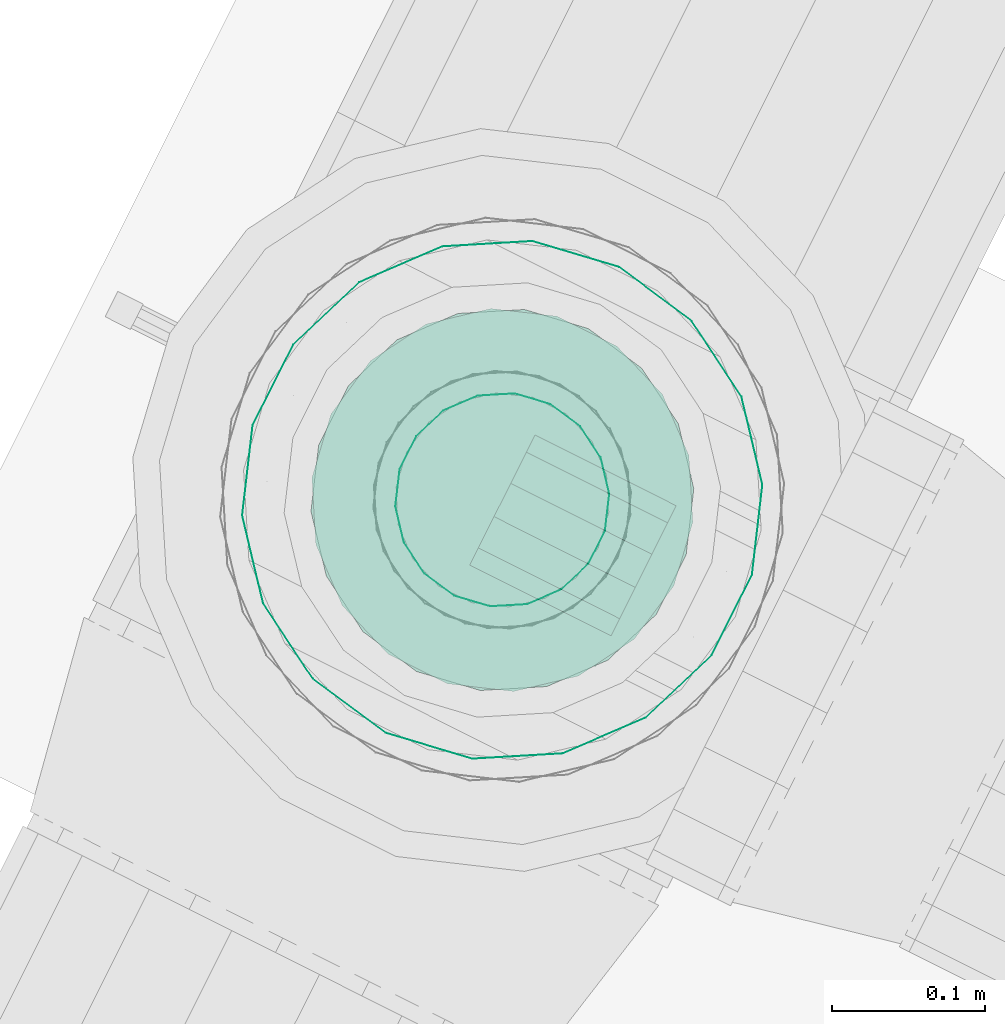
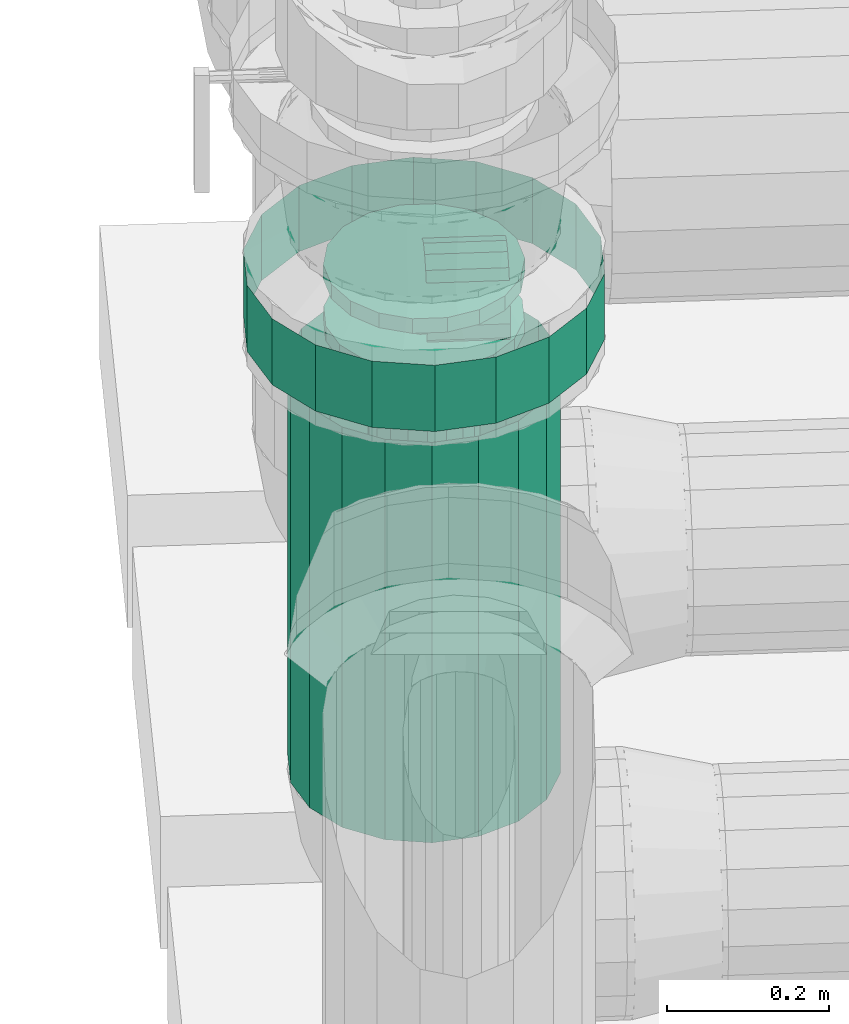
# One storey, part 105 of 152: 1 flow controller, 1 flow segment.
"""IFC2X3 building model written with IfcOpenShell, lengths in metres."""

import ifcopenshell
import ifcopenshell.guid

model = None  # the IFC model being written
_history = None  # IfcOwnerHistory: only IFC2X3 demands one
_inside = {}  # id of a spatial element -> (the spatial element, [elements in it])
_under = {}  # id of a project, library or spatial element -> (it, [spatial elements below it])
_declared = {}  # id of a project -> (the project, [libraries it declares])
_typed = {}  # id of a type object -> (the type object, [elements of that type])
_made_of = {}  # id of a material, layer set ... -> (it, [elements and type objects made of it])


def new_model(schema):
    """Start an empty IFC model of exactly this schema.

    Asked for "IFC4X3", IfcOpenShell would pick the latest addendum, in which some entities
    have other attributes; the version numbers below select the first issue.
    IFC2X3 requires an IfcOwnerHistory on every rooted entity: one is made here for all.
    """
    global model, _history
    if schema == "IFC4X3":
        model = ifcopenshell.file(schema_version=(4, 3, 0, 0))
    else:
        model = ifcopenshell.file(schema=schema)
    _inside.clear()
    _under.clear()
    _declared.clear()
    _typed.clear()
    _made_of.clear()
    _history = None
    if model.schema == "IFC2X3":
        org = make("IfcOrganization", Name="unknown")
        user = make(
            "IfcPersonAndOrganization",
            ThePerson=make("IfcPerson", FamilyName="unknown"),
            TheOrganization=org,
        )
        app = make(
            "IfcApplication",
            ApplicationDeveloper=org,
            Version="unknown",
            ApplicationFullName="unknown",
            ApplicationIdentifier="unknown",
        )
        _history = make(
            "IfcOwnerHistory",
            OwningUser=user,
            OwningApplication=app,
            ChangeAction="ADDED",
            CreationDate=0,
        )
    return model


def make(cls, **values):
    """One entity of the class cls with the attributes given. An attribute that is None is left unset."""
    return model.create_entity(
        cls, **{name: value for name, value in values.items() if value is not None}
    )


def rooted(cls, **values):
    """An entity with a GlobalId (a new one), such as an element, a storey or a relation."""
    return make(cls, GlobalId=ifcopenshell.guid.new(), OwnerHistory=_history, **values)


def si_unit(unit_type, name, prefix=None):
    """IfcSIUnit, for example si_unit("LENGTHUNIT", "METRE", prefix="MILLI")."""
    return make("IfcSIUnit", UnitType=unit_type, Prefix=prefix, Name=name)


def derived_unit(unit_type, elements):
    """IfcDerivedUnit: a product of units, each with its exponent."""
    return make(
        "IfcDerivedUnit",
        Elements=[
            make("IfcDerivedUnitElement", Unit=unit, Exponent=power)
            for unit, power in elements
        ],
        UnitType=unit_type,
    )


def assignment(units):
    """IfcUnitAssignment: the units of a project."""
    return None if units is None else make("IfcUnitAssignment", Units=units)


def point(xyz):
    """IfcCartesianPoint."""
    return None if xyz is None else make("IfcCartesianPoint", Coordinates=xyz)


def direction(xyz):
    """IfcDirection."""
    return None if xyz is None else make("IfcDirection", DirectionRatios=xyz)


def frame(location, z_axis=None, x_axis=None):
    """IfcAxis2Placement3D, a coordinate frame: its origin and axes. An axis left out is left unset."""
    return make(
        "IfcAxis2Placement3D",
        Location=point(location),
        Axis=direction(z_axis),
        RefDirection=direction(x_axis),
    )


def origin():
    """The frame at (0, 0, 0) with its axes left unset."""
    return frame((0.0, 0.0, 0.0))


def place(relative_to, where):
    """IfcLocalPlacement: puts the frame where relative to a parent placement (None: the world)."""
    return make(
        "IfcLocalPlacement", PlacementRelTo=relative_to, RelativePlacement=where
    )


def context(
    kind, dimensions, precision=None, world=None, true_north=None, identifier=None
):
    """IfcGeometricRepresentationContext, for example the 3D "Model" context."""
    return make(
        "IfcGeometricRepresentationContext",
        ContextIdentifier=identifier,
        ContextType=kind,
        CoordinateSpaceDimension=dimensions,
        Precision=precision,
        WorldCoordinateSystem=world,
        TrueNorth=true_north,
    )


def subcontext(parent, identifier, kind, view, scale=None):
    """IfcGeometricRepresentationSubContext, for example "Body" below "Model"."""
    return make(
        "IfcGeometricRepresentationSubContext",
        ContextIdentifier=identifier,
        ContextType=kind,
        ParentContext=parent,
        TargetScale=scale,
        TargetView=view,
    )


def project(units=None, contexts=None):
    """IfcProject with its units and contexts."""
    return rooted(
        "IfcProject",
        Name="project",
        RepresentationContexts=contexts,
        UnitsInContext=assignment(units),
    )


def spatial(cls, under=None, at=None, **own):
    """A site, building, storey or space (cls), placed at a placement, below another one or the project."""
    s = rooted(cls, ObjectPlacement=at, **own)
    if under is not None:
        _under.setdefault(under.id(), (under, []))[1].append(s)
    return s


def faces_of(points, faces, orient=None, outer=None):
    """IfcFace entities. A face is a list of loops; a loop is a list of indices into points, from 0.

    orient and outer hold one flag for each loop. By default every Orientation is true, the
    first loop of a face is its IfcFaceOuterBound and the others are IfcFaceBound.
    """
    made = []
    for i, loops in enumerate(faces):
        bounds = []
        for j, loop in enumerate(loops):
            is_outer = j == 0 if outer is None else outer[i][j]
            bounds.append(
                make(
                    "IfcFaceOuterBound" if is_outer else "IfcFaceBound",
                    Bound=make("IfcPolyLoop", Polygon=[points[k] for k in loop]),
                    Orientation=True if orient is None else orient[i][j],
                )
            )
        made.append(make("IfcFace", Bounds=bounds))
    return made


def face_set(faces, orient=None, outer=None):
    """The faces of one IfcConnectedFaceSet. surface_model builds it on its shared points."""
    return ("IfcConnectedFaceSet", faces, orient, outer)


def surface_model(cls, points, shells):
    """IfcFaceBasedSurfaceModel or IfcShellBasedSurfaceModel (cls): surfaces that need not close."""
    shared = [point(p) for p in points]
    made = [make(c, CfsFaces=faces_of(shared, fs, o, b)) for c, fs, o, b in shells]
    if cls == "IfcFaceBasedSurfaceModel":
        return make(cls, FbsmFaces=made)
    return make(cls, SbsmBoundary=made)


def shape(context_of_items, identifier, shape_type, items):
    """IfcShapeRepresentation: the items that make up one representation, for example the "Body"."""
    return make(
        "IfcShapeRepresentation",
        ContextOfItems=context_of_items,
        RepresentationIdentifier=identifier,
        RepresentationType=shape_type,
        Items=items,
    )


def source(mapping_origin, context_of_items, identifier, shape_type, items):
    """IfcRepresentationMap: a shape defined once, which mapped items show again and again."""
    return make(
        "IfcRepresentationMap",
        MappingOrigin=mapping_origin,
        MappedRepresentation=shape(context_of_items, identifier, shape_type, items),
    )


def transform(
    local_origin,
    x_axis=None,
    y_axis=None,
    z_axis=None,
    scale=None,
    scale2=None,
    scale3=None,
    uniform=True,
):
    """IfcCartesianTransformationOperator3D, or its non-uniform kind. x_axis, y_axis, z_axis: its Axis1, 2, 3."""
    if uniform:
        return make(
            "IfcCartesianTransformationOperator3D",
            Axis1=direction(x_axis),
            Axis2=direction(y_axis),
            LocalOrigin=point(local_origin),
            Scale=scale,
            Axis3=direction(z_axis),
        )
    return make(
        "IfcCartesianTransformationOperator3DnonUniform",
        Axis1=direction(x_axis),
        Axis2=direction(y_axis),
        LocalOrigin=point(local_origin),
        Scale=scale,
        Axis3=direction(z_axis),
        Scale2=scale2,
        Scale3=scale3,
    )


def mapped(mapping_source, mapping_target):
    """IfcMappedItem: shows the shape of a source again, moved by a transform."""
    return make(
        "IfcMappedItem", MappingSource=mapping_source, MappingTarget=mapping_target
    )


def material(Name=None, Category=None):
    """IfcMaterial."""
    return make("IfcMaterial", Name=Name, Category=Category)


def made_of(thing, what):
    """Note that an element or type object is made of a material, layer set ...; save() writes the relation."""
    if what is not None:
        _made_of.setdefault(what.id(), (what, []))[1].append(thing)
    return thing


def type_object(cls, material=None, **own):
    """A type object (cls), such as IfcWallType, which elements share."""
    return made_of(rooted(cls, **own), material)


def type_shapes(of_type, sources):
    """Give a type object the sources (RepresentationMaps) that its elements show as mapped items."""
    of_type.RepresentationMaps = sources


def element(
    cls,
    number,
    at=None,
    inside=None,
    cuts=None,
    type_object=None,
    material=None,
    context=None,
    identifier="Body",
    shape_type=None,
    held_by="IfcProductDefinitionShape",
    body=None,
    shapes=None,
    **own,
):
    """One element of the class cls, such as IfcWall. Its Tag is "e" and its number.

    at: its placement. inside: the storey or other place that contains it. cuts: it is an
    opening in that element (IfcRelVoidsElement). A single representation is given by context,
    identifier, shape_type and body (its items); several are given by shapes. held_by: the class
    of the entity that holds the representations. save() writes the other relations.
    """
    e = rooted(cls, Tag="e%d" % number, ObjectPlacement=at, **own)
    if body is not None:
        shapes = [shape(context, identifier, shape_type, body)]
    if shapes is not None:
        e.Representation = make(held_by, Representations=shapes)
    if inside is not None:
        _inside.setdefault(inside.id(), (inside, []))[1].append(e)
    if cuts is not None:
        rooted(
            "IfcRelVoidsElement", RelatingBuildingElement=cuts, RelatedOpeningElement=e
        )
    if type_object is not None:
        _typed.setdefault(type_object.id(), (type_object, []))[1].append(e)
    return made_of(e, material)


def aggregate(whole, parts):
    """IfcRelAggregates: a whole, such as a stair, and the parts it consists of."""
    return rooted("IfcRelAggregates", RelatingObject=whole, RelatedObjects=parts)


def save(model, path):
    """Write the relations noted so far, then the file.

    IfcRelAggregates (storeys below a building ...), IfcRelContainedInSpatialStructure (elements
    in a storey), IfcRelDefinesByType, IfcRelAssociatesMaterial and IfcRelDeclares: one each for
    every whole, place, type object, material and project.
    """
    for whole, parts in _under.values():
        aggregate(whole, parts)
    for where, things in _inside.values():
        rooted(
            "IfcRelContainedInSpatialStructure",
            RelatedElements=things,
            RelatingStructure=where,
        )
    for kind, things in _typed.values():
        rooted("IfcRelDefinesByType", RelatedObjects=things, RelatingType=kind)
    for what, things in _made_of.values():
        rooted("IfcRelAssociatesMaterial", RelatedObjects=things, RelatingMaterial=what)
    for by, libraries in _declared.values():
        rooted("IfcRelDeclares", RelatingContext=by, RelatedDefinitions=libraries)
    model.write(path)


model = new_model("IFC2X3")

# Units and contexts
model_context = context("Model", 3, precision=5.2338327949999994e-05, world=origin(), true_north=direction((0.0, 1.0)))
body_context = subcontext(model_context, "Body", "Model", "MODEL_VIEW")
ifc_project = project(units=[si_unit("LENGTHUNIT", "METRE"), si_unit("AREAUNIT", "SQUARE_METRE"), si_unit("VOLUMEUNIT", "CUBIC_METRE"), si_unit("MASSUNIT", "GRAM", prefix="KILO"), si_unit("PLANEANGLEUNIT", "RADIAN"), derived_unit("THERMALTRANSMITTANCEUNIT", [(si_unit("MASSUNIT", "GRAM", prefix="KILO"), 1), (si_unit("THERMODYNAMICTEMPERATUREUNIT", "KELVIN"), -1), (si_unit("TIMEUNIT", "SECOND"), -3)])], contexts=[model_context])

# Site, building, storey
site_placement = place(None, frame((0.0, 0.0, 0.0), z_axis=(0.0, 0.0, 1.0), x_axis=(0.8939966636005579, -0.4480736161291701, 0.0)))
site = spatial("IfcSite", under=ifc_project, at=site_placement, Name="Default", CompositionType="ELEMENT")
building_placement = place(site_placement, origin())
building = spatial("IfcBuilding", under=site, at=building_placement, CompositionType="ELEMENT")
storey_placement = place(building_placement, frame((0.0, 0.0, 2.7499999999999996)))
storey = spatial("IfcBuildingStorey", under=building, at=storey_placement, Name="1. Obergeschoss", CompositionType="ELEMENT", Elevation=2.7499999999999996)

# Flow controller
ifc_material = material(Name="IfcSurfaceStyle #9317")
distribution_element_type_1 = type_object("IfcDistributionElementType", Name="Rückschlagklappe 236840:Rückschlagklappe 236840", material=ifc_material)
shared_shape_1 = source(origin(), body_context, "Body", "SurfaceModel", [
    surface_model("IfcFaceBasedSurfaceModel", [(9.625770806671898, 6.716748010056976, 4.175071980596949), (9.583018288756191, 6.709209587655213, 4.175071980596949), (9.583018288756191, 6.709209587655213, 4.1970719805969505), (9.625770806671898, 6.716748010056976, 4.1970719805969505), (9.545422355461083, 6.6875035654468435, 4.175071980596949), (9.545422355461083, 6.6875035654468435, 4.1970719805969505), (9.517517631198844, 6.65424801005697, 4.175071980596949), (9.517517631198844, 6.65424801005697, 4.1970719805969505), (9.502669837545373, 6.613454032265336, 4.175071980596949), (9.502669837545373, 6.613454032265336, 4.1970719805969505), (9.502669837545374, 6.570041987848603, 4.175071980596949), (9.502669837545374, 6.570041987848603, 4.1970719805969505), (9.517517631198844, 6.529248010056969, 4.175071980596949), (9.517517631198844, 6.529248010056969, 4.1970719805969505), (9.545422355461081, 6.495992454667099, 4.175071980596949), (9.545422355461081, 6.495992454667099, 4.1970719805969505), (9.583018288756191, 6.474286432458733, 4.175071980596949), (9.583018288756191, 6.474286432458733, 4.1970719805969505), (9.6257708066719, 6.466748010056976, 4.175071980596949), (9.6257708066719, 6.466748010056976, 4.1970719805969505), (9.668523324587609, 6.4742864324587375, 4.175071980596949), (9.668523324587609, 6.4742864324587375, 4.1970719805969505), (9.706119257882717, 6.495992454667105, 4.175071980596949), (9.706119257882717, 6.495992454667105, 4.1970719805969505), (9.734023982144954, 6.529248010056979, 4.175071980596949), (9.734023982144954, 6.529248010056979, 4.1970719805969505), (9.748871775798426, 6.570041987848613, 4.175071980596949), (9.748871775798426, 6.570041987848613, 4.1970719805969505), (9.748871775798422, 6.613454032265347, 4.175071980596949), (9.748871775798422, 6.613454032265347, 4.1970719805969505), (9.734023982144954, 6.65424801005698, 4.175071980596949), (9.734023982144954, 6.65424801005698, 4.1970719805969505), (9.706119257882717, 6.687503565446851, 4.175071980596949), (9.706119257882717, 6.687503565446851, 4.1970719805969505), (9.66852332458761, 6.709209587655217, 4.175071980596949), (9.66852332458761, 6.709209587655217, 4.1970719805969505), (9.625770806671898, 6.591748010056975, 4.175071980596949), (9.625770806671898, 6.591748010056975, 4.19707198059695), (9.579204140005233, 6.591748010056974, 4.1970719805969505), (9.582012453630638, 6.57582127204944, 4.1970719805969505), (9.560133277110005, 6.567857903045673, 4.215738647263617), (9.5559208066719, 6.59174801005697, 4.215738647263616), (9.590098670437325, 6.561815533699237, 4.19707198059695), (9.572262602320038, 6.546849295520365, 4.215738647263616), (9.602487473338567, 6.5514200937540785, 4.1970719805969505), (9.5908458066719, 6.5312561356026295, 4.215738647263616), (9.61768458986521, 6.545888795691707, 4.1970719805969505), (9.613641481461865, 6.52295918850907, 4.215738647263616), (9.633857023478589, 6.545888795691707, 4.1970719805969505), (9.637900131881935, 6.52295918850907, 4.215738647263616), (9.649054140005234, 6.55142009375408, 4.1970719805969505), (9.6606958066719, 6.531256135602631, 4.215738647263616), (9.661442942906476, 6.5618155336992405, 4.1970719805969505), (9.67927901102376, 6.54684929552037, 4.215738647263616), (9.669529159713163, 6.575821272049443, 4.1970719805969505), (9.691408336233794, 6.567857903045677, 4.215738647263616), (9.672337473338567, 6.591748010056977, 4.1970719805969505), (9.6956208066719, 6.591748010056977, 4.215738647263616), (9.669529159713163, 6.6076747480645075, 4.1970719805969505), (9.691408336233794, 6.615638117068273, 4.215738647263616), (9.661442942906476, 6.621680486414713, 4.1970719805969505), (9.67927901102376, 6.636646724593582, 4.215738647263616), (9.649054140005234, 6.632075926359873, 4.19707198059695), (9.660695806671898, 6.652239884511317, 4.215738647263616), (9.633857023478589, 6.637607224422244, 4.1970719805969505), (9.637900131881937, 6.660536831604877, 4.215738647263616), (9.617684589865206, 6.6376072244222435, 4.1970719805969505), (9.613641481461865, 6.660536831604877, 4.215738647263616), (9.602487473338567, 6.632075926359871, 4.19707198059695), (9.590845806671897, 6.652239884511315, 4.215738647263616), (9.590098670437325, 6.62168048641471, 4.19707198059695), (9.572262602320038, 6.636646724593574, 4.215738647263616), (9.582012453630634, 6.607674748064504, 4.19707198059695), (9.560133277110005, 6.615638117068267, 4.215738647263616), (9.6257708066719, 6.661598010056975, 4.215738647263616), (9.601880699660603, 6.65738553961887, 4.215738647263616), (9.601880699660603, 6.65738553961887, 4.234405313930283), (9.6257708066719, 6.661598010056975, 4.234405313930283), (9.580872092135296, 6.645256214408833, 4.215738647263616), (9.580872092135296, 6.645256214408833, 4.234405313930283), (9.565278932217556, 6.626673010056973, 4.215738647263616), (9.565278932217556, 6.626673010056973, 4.234405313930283), (9.556981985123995, 6.603877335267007, 4.215738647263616), (9.556981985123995, 6.603877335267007, 4.234405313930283), (9.556981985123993, 6.579618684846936, 4.215738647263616), (9.556981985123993, 6.579618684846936, 4.234405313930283), (9.565278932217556, 6.556823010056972, 4.215738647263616), (9.565278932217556, 6.556823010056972, 4.234405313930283), (9.580872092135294, 6.538239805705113, 4.215738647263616), (9.580872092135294, 6.538239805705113, 4.234405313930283), (9.601880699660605, 6.526110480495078, 4.215738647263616), (9.601880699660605, 6.526110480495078, 4.234405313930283), (9.6257708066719, 6.521898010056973, 4.215738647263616), (9.6257708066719, 6.521898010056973, 4.234405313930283), (9.6496609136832, 6.526110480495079, 4.215738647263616), (9.6496609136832, 6.526110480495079, 4.234405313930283), (9.670669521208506, 6.538239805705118, 4.215738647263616), (9.670669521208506, 6.538239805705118, 4.234405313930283), (9.68626268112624, 6.556823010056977, 4.215738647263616), (9.68626268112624, 6.556823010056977, 4.234405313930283), (9.694559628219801, 6.579618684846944, 4.215738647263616), (9.694559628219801, 6.579618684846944, 4.234405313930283), (9.694559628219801, 6.603877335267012, 4.215738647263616), (9.694559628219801, 6.603877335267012, 4.234405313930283), (9.686262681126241, 6.626673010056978, 4.215738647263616), (9.686262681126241, 6.626673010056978, 4.234405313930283), (9.670669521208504, 6.645256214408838, 4.215738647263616), (9.670669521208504, 6.645256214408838, 4.234405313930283), (9.6496609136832, 6.657385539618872, 4.215738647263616), (9.6496609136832, 6.657385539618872, 4.234405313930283), (9.5559208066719, 6.591748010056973, 4.234405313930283), (9.560133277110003, 6.567857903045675, 4.234405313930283), (9.582012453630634, 6.575821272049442, 4.253071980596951), (9.579204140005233, 6.591748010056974, 4.253071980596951), (9.572262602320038, 6.546849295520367, 4.234405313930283), (9.590098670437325, 6.561815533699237, 4.253071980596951), (9.5908458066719, 6.53125613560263, 4.234405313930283), (9.602487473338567, 6.5514200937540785, 4.2530719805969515), (9.613641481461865, 6.522959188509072, 4.234405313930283), (9.61768458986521, 6.545888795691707, 4.2530719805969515), (9.637900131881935, 6.522959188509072, 4.234405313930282), (9.633857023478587, 6.545888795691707, 4.25307198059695), (9.6606958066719, 6.531256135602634, 4.234405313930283), (9.649054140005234, 6.55142009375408, 4.2530719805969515), (9.67927901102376, 6.5468492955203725, 4.234405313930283), (9.661442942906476, 6.5618155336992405, 4.253071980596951), (9.691408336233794, 6.56785790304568, 4.234405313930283), (9.669529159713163, 6.575821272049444, 4.2530719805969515), (9.695620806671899, 6.591748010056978, 4.234405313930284), (9.672337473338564, 6.591748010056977, 4.2530719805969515), (9.691408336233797, 6.6156381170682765, 4.234405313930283), (9.669529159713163, 6.6076747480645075, 4.253071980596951), (9.67927901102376, 6.636646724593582, 4.234405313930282), (9.661442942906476, 6.621680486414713, 4.25307198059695), (9.660695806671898, 6.65223988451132, 4.234405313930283), (9.649054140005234, 6.632075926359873, 4.253071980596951), (9.637900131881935, 6.660536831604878, 4.234405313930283), (9.633857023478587, 6.637607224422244, 4.2530719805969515), (9.613641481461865, 6.660536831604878, 4.234405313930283), (9.617684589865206, 6.6376072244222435, 4.253071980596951), (9.590845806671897, 6.652239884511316, 4.234405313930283), (9.602487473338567, 6.632075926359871, 4.2530719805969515), (9.572262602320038, 6.636646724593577, 4.234405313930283), (9.590098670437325, 6.62168048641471, 4.253071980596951), (9.560133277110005, 6.61563811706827, 4.234405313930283), (9.582012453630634, 6.607674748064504, 4.253071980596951), (9.6257708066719, 6.661598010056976, 4.22507198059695), (9.6257708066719, 6.657385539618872, 4.248962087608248), (9.728770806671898, 6.657385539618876, 4.248962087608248), (9.728770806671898, 6.661598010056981, 4.22507198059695), (9.625770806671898, 6.645256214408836, 4.269970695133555), (9.728770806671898, 6.645256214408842, 4.269970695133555), (9.625770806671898, 6.626673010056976, 4.285563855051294), (9.728770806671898, 6.62667301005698, 4.285563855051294), (9.6257708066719, 6.60387733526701, 4.293860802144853), (9.728770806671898, 6.603877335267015, 4.293860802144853), (9.625770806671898, 6.57961868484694, 4.293860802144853), (9.728770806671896, 6.5796186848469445, 4.293860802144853), (9.6257708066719, 6.556823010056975, 4.285563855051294), (9.728770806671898, 6.55682301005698, 4.285563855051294), (9.625770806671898, 6.538239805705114, 4.269970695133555), (9.728770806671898, 6.538239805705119, 4.269970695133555), (9.625770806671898, 6.526110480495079, 4.248962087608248), (9.728770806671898, 6.526110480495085, 4.248962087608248), (9.6257708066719, 6.521898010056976, 4.22507198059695), (9.728770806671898, 6.52189801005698, 4.22507198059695), (9.625770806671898, 6.526110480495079, 4.201181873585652), (9.728770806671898, 6.526110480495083, 4.201181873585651), (9.625770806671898, 6.538239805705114, 4.180173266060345), (9.728770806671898, 6.538239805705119, 4.180173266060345), (9.6257708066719, 6.556823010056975, 4.164580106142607), (9.728770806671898, 6.55682301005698, 4.164580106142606), (9.625770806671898, 6.57961868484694, 4.156283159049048), (9.728770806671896, 6.5796186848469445, 4.156283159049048), (9.6257708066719, 6.60387733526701, 4.156283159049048), (9.728770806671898, 6.603877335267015, 4.156283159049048), (9.625770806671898, 6.626673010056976, 4.164580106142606), (9.728770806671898, 6.62667301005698, 4.164580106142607), (9.625770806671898, 6.645256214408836, 4.180173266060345), (9.728770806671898, 6.645256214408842, 4.180173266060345), (9.6257708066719, 6.657385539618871, 4.201181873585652), (9.728770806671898, 6.657385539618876, 4.201181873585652), (9.728770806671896, 6.591748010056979, 4.22507198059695), (9.750770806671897, 6.59174801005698, 4.25307198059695), (9.743232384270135, 6.63450052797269, 4.25307198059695), (9.743232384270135, 6.63450052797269, 4.27507198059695), (9.750770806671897, 6.59174801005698, 4.27507198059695), (9.72152636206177, 6.672096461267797, 4.25307198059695), (9.72152636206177, 6.672096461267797, 4.27507198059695), (9.688270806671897, 6.700001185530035, 4.25307198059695), (9.688270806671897, 6.700001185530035, 4.27507198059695), (9.647476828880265, 6.714848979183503, 4.25307198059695), (9.647476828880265, 6.714848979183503, 4.27507198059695), (9.604064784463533, 6.714848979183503, 4.25307198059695), (9.604064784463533, 6.714848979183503, 4.27507198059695), (9.5632708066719, 6.700001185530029, 4.25307198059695), (9.5632708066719, 6.700001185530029, 4.27507198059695), (9.530015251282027, 6.672096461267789, 4.25307198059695), (9.530015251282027, 6.672096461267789, 4.27507198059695), (9.508309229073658, 6.63450052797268, 4.25307198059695), (9.508309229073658, 6.63450052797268, 4.27507198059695), (9.5007708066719, 6.59174801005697, 4.25307198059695), (9.5007708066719, 6.59174801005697, 4.27507198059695), (9.508309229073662, 6.548995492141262, 4.25307198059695), (9.508309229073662, 6.548995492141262, 4.27507198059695), (9.530015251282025, 6.511399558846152, 4.25307198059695), (9.530015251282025, 6.511399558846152, 4.27507198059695), (9.5632708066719, 6.483494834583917, 4.25307198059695), (9.5632708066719, 6.483494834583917, 4.27507198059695), (9.604064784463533, 6.468647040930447, 4.25307198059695), (9.604064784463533, 6.468647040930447, 4.27507198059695), (9.647476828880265, 6.468647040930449, 4.25307198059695), (9.647476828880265, 6.468647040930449, 4.27507198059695), (9.6882708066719, 6.483494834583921, 4.25307198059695), (9.6882708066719, 6.483494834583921, 4.27507198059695), (9.72152636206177, 6.511399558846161, 4.25307198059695), (9.72152636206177, 6.511399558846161, 4.27507198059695), (9.743232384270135, 6.548995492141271, 4.25307198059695), (9.743232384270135, 6.548995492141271, 4.27507198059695), (9.625770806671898, 6.591748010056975, 4.25307198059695), (9.625770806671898, 6.591748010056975, 4.275071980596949), (9.625770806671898, 6.816748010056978, 4.175071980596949), (9.548816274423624, 6.8031788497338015, 4.175071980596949), (9.548816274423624, 6.8031788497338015, 4.27507198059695), (9.625770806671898, 6.816748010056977, 4.27507198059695), (9.481143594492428, 6.764108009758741, 4.175071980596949), (9.481143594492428, 6.764108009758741, 4.27507198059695), (9.4309150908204, 6.7042480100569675, 4.175071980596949), (9.4309150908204, 6.7042480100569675, 4.27507198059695), (9.404189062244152, 6.630818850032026, 4.175071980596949), (9.404189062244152, 6.630818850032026, 4.27507198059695), (9.404189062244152, 6.552677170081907, 4.175071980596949), (9.404189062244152, 6.552677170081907, 4.27507198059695), (9.430915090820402, 6.479248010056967, 4.175071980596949), (9.430915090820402, 6.479248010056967, 4.27507198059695), (9.481143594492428, 6.419388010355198, 4.175071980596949), (9.481143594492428, 6.419388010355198, 4.27507198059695), (9.548816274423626, 6.380317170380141, 4.175071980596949), (9.548816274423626, 6.380317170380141, 4.27507198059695), (9.6257708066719, 6.366748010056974, 4.175071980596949), (9.6257708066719, 6.366748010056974, 4.27507198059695), (9.702725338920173, 6.380317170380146, 4.175071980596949), (9.702725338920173, 6.380317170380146, 4.27507198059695), (9.770398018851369, 6.419388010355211, 4.175071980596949), (9.770398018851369, 6.419388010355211, 4.27507198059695), (9.820626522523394, 6.479248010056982, 4.175071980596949), (9.820626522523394, 6.479248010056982, 4.27507198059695), (9.847352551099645, 6.552677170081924, 4.175071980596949), (9.847352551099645, 6.552677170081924, 4.27507198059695), (9.847352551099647, 6.6308188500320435, 4.175071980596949), (9.847352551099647, 6.6308188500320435, 4.27507198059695), (9.820626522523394, 6.704248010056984, 4.175071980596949), (9.820626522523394, 6.704248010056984, 4.27507198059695), (9.77039801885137, 6.764108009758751, 4.175071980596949), (9.77039801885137, 6.764108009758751, 4.27507198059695), (9.702725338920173, 6.803178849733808, 4.175071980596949), (9.702725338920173, 6.803178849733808, 4.27507198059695)], [face_set([[[0, 1, 2, 3]], [[1, 4, 5, 2]], [[4, 6, 7, 5]], [[6, 8, 9, 7]], [[8, 10, 11, 9]], [[10, 12, 13, 11]], [[12, 14, 15, 13]], [[14, 16, 17, 15]], [[16, 18, 19, 17]], [[18, 20, 21, 19]], [[20, 22, 23, 21]], [[22, 24, 25, 23]], [[24, 26, 27, 25]], [[26, 28, 29, 27]], [[28, 30, 31, 29]], [[30, 32, 33, 31]], [[32, 34, 35, 33]], [[34, 0, 3, 35]], [[36, 1, 0]], [[36, 4, 1]], [[36, 6, 4]], [[36, 8, 6]], [[36, 10, 8]], [[36, 12, 10]], [[36, 14, 12]], [[36, 16, 14]], [[36, 18, 16]], [[36, 20, 18]], [[36, 22, 20]], [[36, 24, 22]], [[36, 26, 24]], [[36, 28, 26]], [[36, 30, 28]], [[36, 32, 30]], [[36, 34, 32]], [[36, 0, 34]], [[37, 35, 3]], [[37, 33, 35]], [[37, 31, 33]], [[37, 29, 31]], [[37, 27, 29]], [[37, 25, 27]], [[37, 23, 25]], [[37, 21, 23]], [[37, 19, 21]], [[37, 17, 19]], [[37, 15, 17]], [[37, 13, 15]], [[37, 11, 13]], [[37, 9, 11]], [[37, 7, 9]], [[37, 5, 7]], [[37, 2, 5]], [[37, 3, 2]], [[38, 39, 40, 41]], [[39, 42, 43, 40]], [[42, 44, 45, 43]], [[44, 46, 47, 45]], [[46, 48, 49, 47]], [[48, 50, 51, 49]], [[50, 52, 53, 51]], [[52, 54, 55, 53]], [[54, 56, 57, 55]], [[56, 58, 59, 57]], [[58, 60, 61, 59]], [[60, 62, 63, 61]], [[62, 64, 65, 63]], [[64, 66, 67, 65]], [[66, 68, 69, 67]], [[68, 70, 71, 69]], [[70, 72, 73, 71]], [[72, 38, 41, 73]], [[74, 75, 76, 77]], [[75, 78, 79, 76]], [[78, 80, 81, 79]], [[80, 82, 83, 81]], [[82, 84, 85, 83]], [[84, 86, 87, 85]], [[86, 88, 89, 87]], [[88, 90, 91, 89]], [[90, 92, 93, 91]], [[92, 94, 95, 93]], [[94, 96, 97, 95]], [[96, 98, 99, 97]], [[98, 100, 101, 99]], [[100, 102, 103, 101]], [[102, 104, 105, 103]], [[104, 106, 107, 105]], [[106, 108, 109, 107]], [[108, 74, 77, 109]], [[110, 111, 112, 113]], [[111, 114, 115, 112]], [[114, 116, 117, 115]], [[116, 118, 119, 117]], [[118, 120, 121, 119]], [[120, 122, 123, 121]], [[122, 124, 125, 123]], [[124, 126, 127, 125]], [[126, 128, 129, 127]], [[128, 130, 131, 129]], [[130, 132, 133, 131]], [[132, 134, 135, 133]], [[134, 136, 137, 135]], [[136, 138, 139, 137]], [[138, 140, 141, 139]], [[140, 142, 143, 141]], [[142, 144, 145, 143]], [[144, 110, 113, 145]], [[146, 147, 148, 149]], [[147, 150, 151, 148]], [[150, 152, 153, 151]], [[152, 154, 155, 153]], [[154, 156, 157, 155]], [[156, 158, 159, 157]], [[158, 160, 161, 159]], [[160, 162, 163, 161]], [[162, 164, 165, 163]], [[164, 166, 167, 165]], [[166, 168, 169, 167]], [[168, 170, 171, 169]], [[170, 172, 173, 171]], [[172, 174, 175, 173]], [[174, 176, 177, 175]], [[176, 178, 179, 177]], [[178, 180, 181, 179]], [[180, 146, 149, 181]], [[182, 181, 149]], [[182, 179, 181]], [[182, 177, 179]], [[182, 175, 177]], [[182, 173, 175]], [[182, 171, 173]], [[182, 169, 171]], [[182, 167, 169]], [[182, 165, 167]], [[182, 163, 165]], [[182, 161, 163]], [[182, 159, 161]], [[182, 157, 159]], [[182, 155, 157]], [[182, 153, 155]], [[182, 151, 153]], [[182, 148, 151]], [[182, 149, 148]], [[183, 184, 185, 186]], [[184, 187, 188, 185]], [[187, 189, 190, 188]], [[189, 191, 192, 190]], [[191, 193, 194, 192]], [[193, 195, 196, 194]], [[195, 197, 198, 196]], [[197, 199, 200, 198]], [[199, 201, 202, 200]], [[201, 203, 204, 202]], [[203, 205, 206, 204]], [[205, 207, 208, 206]], [[207, 209, 210, 208]], [[209, 211, 212, 210]], [[211, 213, 214, 212]], [[213, 215, 216, 214]], [[215, 217, 218, 216]], [[217, 183, 186, 218]], [[219, 184, 183]], [[219, 187, 184]], [[219, 189, 187]], [[219, 191, 189]], [[219, 193, 191]], [[219, 195, 193]], [[219, 197, 195]], [[219, 199, 197]], [[219, 201, 199]], [[219, 203, 201]], [[219, 205, 203]], [[219, 207, 205]], [[219, 209, 207]], [[219, 211, 209]], [[219, 213, 211]], [[219, 215, 213]], [[219, 217, 215]], [[219, 183, 217]], [[220, 218, 186]], [[220, 216, 218]], [[220, 214, 216]], [[220, 212, 214]], [[220, 210, 212]], [[220, 208, 210]], [[220, 206, 208]], [[220, 204, 206]], [[220, 202, 204]], [[220, 200, 202]], [[220, 198, 200]], [[220, 196, 198]], [[220, 194, 196]], [[220, 192, 194]], [[220, 190, 192]], [[220, 188, 190]], [[220, 185, 188]], [[220, 186, 185]], [[221, 222, 223, 224]], [[222, 225, 226, 223]], [[225, 227, 228, 226]], [[227, 229, 230, 228]], [[229, 231, 232, 230]], [[231, 233, 234, 232]], [[233, 235, 236, 234]], [[235, 237, 238, 236]], [[237, 239, 240, 238]], [[239, 241, 242, 240]], [[241, 243, 244, 242]], [[243, 245, 246, 244]], [[245, 247, 248, 246]], [[247, 249, 250, 248]], [[249, 251, 252, 250]], [[251, 253, 254, 252]], [[253, 255, 256, 254]], [[255, 221, 224, 256]]])]),
])
type_shapes(distribution_element_type_1, [shared_shape_1])
flow_controller_placement = place(storey_placement, frame((0.0, 0.0, -2.7499999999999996)))
element("IfcFlowController", 1, at=flow_controller_placement, inside=storey, type_object=distribution_element_type_1, material=ifc_material, Name="Rückschlagklappe", ObjectType="Rückschlagklappe", context=body_context, shape_type="MappedRepresentation", body=[
    mapped(shared_shape_1, transform((0.0, 0.0, 0.0), scale=1.0)),
])

# Flow segment
distribution_element_type_2 = type_object("IfcDistributionElementType", Name="Stahlrohr nach DIN 2448 236863:Stahlrohr nach DIN 2448 236863", material=ifc_material)
shared_shape_2 = source(origin(), body_context, "Body", "SurfaceModel", [
    surface_model("IfcFaceBasedSurfaceModel", [(9.625770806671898, 6.661598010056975, 3.5151547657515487), (9.601880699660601, 6.657385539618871, 3.5151547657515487), (9.601880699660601, 6.657385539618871, 4.120071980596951), (9.625770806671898, 6.661598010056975, 4.120071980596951), (9.580872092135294, 6.645256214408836, 3.5151547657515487), (9.580872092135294, 6.6452562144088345, 4.120071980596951), (9.565278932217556, 6.626673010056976, 3.5151547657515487), (9.565278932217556, 6.626673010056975, 4.120071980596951), (9.556981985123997, 6.603877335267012, 3.5151547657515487), (9.556981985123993, 6.603877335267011, 4.120071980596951), (9.556981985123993, 6.579618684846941, 3.5151547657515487), (9.556981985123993, 6.579618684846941, 4.120071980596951), (9.565278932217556, 6.556823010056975, 3.5151547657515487), (9.565278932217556, 6.556823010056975, 4.120071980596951), (9.580872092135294, 6.538239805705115, 3.5151547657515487), (9.580872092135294, 6.538239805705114, 4.120071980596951), (9.601880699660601, 6.52611048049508, 3.5151547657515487), (9.601880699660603, 6.52611048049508, 4.120071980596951), (9.6257708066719, 6.521898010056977, 3.5151547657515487), (9.625770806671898, 6.521898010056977, 4.120071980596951), (9.649660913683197, 6.526110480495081, 3.5151547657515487), (9.6496609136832, 6.526110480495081, 4.120071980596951), (9.670669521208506, 6.538239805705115, 3.5151547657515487), (9.670669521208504, 6.538239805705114, 4.120071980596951), (9.68626268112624, 6.556823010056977, 3.5151547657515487), (9.686262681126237, 6.556823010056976, 4.120071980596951), (9.694559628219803, 6.579618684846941, 3.5151547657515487), (9.694559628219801, 6.579618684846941, 4.120071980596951), (9.694559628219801, 6.603877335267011, 3.5151547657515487), (9.6945596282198, 6.603877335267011, 4.120071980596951), (9.686262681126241, 6.626673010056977, 3.5151547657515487), (9.686262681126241, 6.626673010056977, 4.120071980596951), (9.670669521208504, 6.645256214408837, 3.5151547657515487), (9.670669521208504, 6.645256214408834, 4.120071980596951), (9.649660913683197, 6.65738553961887, 3.5151547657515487), (9.649660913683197, 6.65738553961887, 4.120071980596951), (9.625770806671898, 6.761598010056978, 3.5151547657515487), (9.56767868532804, 6.751354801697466, 3.5151547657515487), (9.567678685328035, 6.7513548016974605, 4.120071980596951), (9.625770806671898, 6.761598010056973, 4.120071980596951), (9.516593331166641, 6.721860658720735, 3.5151547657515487), (9.516593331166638, 6.721860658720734, 4.120071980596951), (9.47867639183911, 6.676673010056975, 3.5151547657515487), (9.47867639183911, 6.676673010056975, 4.120071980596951), (9.458501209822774, 6.621242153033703, 3.5151547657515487), (9.458501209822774, 6.621242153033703, 4.120071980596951), (9.458501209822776, 6.562253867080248, 3.5151547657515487), (9.458501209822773, 6.562253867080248, 4.120071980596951), (9.47867639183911, 6.506823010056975, 3.5151547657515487), (9.47867639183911, 6.506823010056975, 4.120071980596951), (9.516593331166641, 6.461635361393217, 3.5151547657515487), (9.516593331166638, 6.461635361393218, 4.120071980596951), (9.567678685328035, 6.43214121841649, 3.5151547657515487), (9.567678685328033, 6.43214121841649, 4.120071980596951), (9.6257708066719, 6.421898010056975, 3.5151547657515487), (9.625770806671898, 6.421898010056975, 4.120071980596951), (9.683862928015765, 6.432141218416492, 3.5151547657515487), (9.683862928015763, 6.43214121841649, 4.120071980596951), (9.73494828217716, 6.461635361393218, 3.5151547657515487), (9.73494828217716, 6.461635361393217, 4.120071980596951), (9.772865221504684, 6.5068230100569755, 3.5151547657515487), (9.772865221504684, 6.506823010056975, 4.120071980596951), (9.793040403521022, 6.562253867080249, 3.5151547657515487), (9.79304040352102, 6.562253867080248, 4.120071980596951), (9.79304040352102, 6.6212421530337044, 3.5151547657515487), (9.793040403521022, 6.621242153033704, 4.120071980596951), (9.772865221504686, 6.6766730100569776, 3.5151547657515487), (9.772865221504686, 6.676673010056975, 4.120071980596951), (9.734948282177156, 6.721860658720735, 3.5151547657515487), (9.734948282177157, 6.721860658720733, 4.120071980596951), (9.683862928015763, 6.751354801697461, 3.5151547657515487), (9.683862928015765, 6.7513548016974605, 4.120071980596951)], [face_set([[[0, 1, 2, 3]], [[1, 4, 5, 2]], [[4, 6, 7, 5]], [[6, 8, 9, 7]], [[8, 10, 11, 9]], [[10, 12, 13, 11]], [[12, 14, 15, 13]], [[14, 16, 17, 15]], [[16, 18, 19, 17]], [[18, 20, 21, 19]], [[20, 22, 23, 21]], [[22, 24, 25, 23]], [[24, 26, 27, 25]], [[26, 28, 29, 27]], [[28, 30, 31, 29]], [[30, 32, 33, 31]], [[32, 34, 35, 33]], [[34, 0, 3, 35]], [[36, 37, 38, 39]], [[37, 40, 41, 38]], [[40, 42, 43, 41]], [[42, 44, 45, 43]], [[44, 46, 47, 45]], [[46, 48, 49, 47]], [[48, 50, 51, 49]], [[50, 52, 53, 51]], [[52, 54, 55, 53]], [[54, 56, 57, 55]], [[56, 58, 59, 57]], [[58, 60, 61, 59]], [[60, 62, 63, 61]], [[62, 64, 65, 63]], [[64, 66, 67, 65]], [[66, 68, 69, 67]], [[68, 70, 71, 69]], [[70, 36, 39, 71]]])]),
])
type_shapes(distribution_element_type_2, [shared_shape_2])
flow_segment_placement = place(storey_placement, frame((0.0, 0.0, -2.7499999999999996)))
element("IfcFlowSegment", 2, at=flow_segment_placement, inside=storey, type_object=distribution_element_type_2, material=ifc_material, Name="Stahlrohr nach DIN 2448", ObjectType="Stahlrohr nach DIN 2448", context=body_context, shape_type="MappedRepresentation", body=[
    mapped(shared_shape_2, transform((0.0, 0.0, 0.0), scale=1.0)),
])

save(model, "model.ifc")
